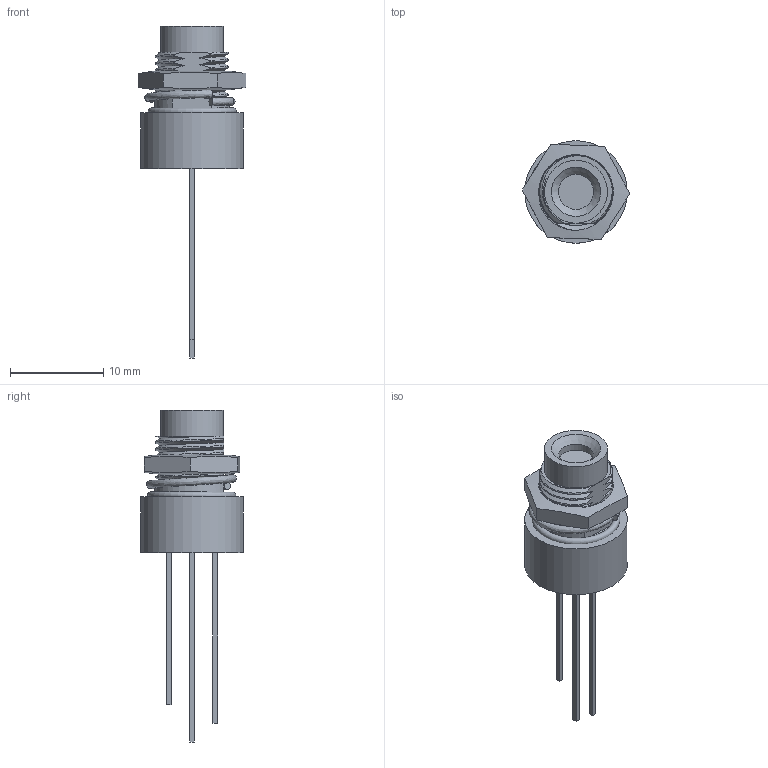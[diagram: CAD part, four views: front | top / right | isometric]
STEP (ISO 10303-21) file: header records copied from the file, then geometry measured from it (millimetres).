
FILE_DESCRIPTION( ( 'Unknown' ), '1' );
FILE_NAME( 'D:/My Documents/Q series 3D files/QRM84BZZRYG.stp', 'Unknown', ( 'Unknown' ), ( 'Unknown' ), 'PSStep 15.0.49', 'Unknown', ' ' );
FILE_SCHEMA( ( 'AUTOMOTIVE_DESIGN { 1 0 10303 214 1 1 1 1 }' ) );
Length unit declared in the file: millimetre
Products named in the file (7): Assem1; 21-0026; 34-0128iss2; 13-0036; 8mm o'ring 0,75diax8; 5mm-flat tri-colour uncut; rear mount potting-3 wires in line
Assembly tree (6 placements, depth 2):
  Assem1
    21-0026
    34-0128iss2
    13-0036
    8mm o'ring 0,75diax8
    5mm-flat tri-colour uncut
    rear mount potting-3 wires in line
Bounding box: 11.54 x 11 x 35.6 mm (x, y, z)
Volume: 1031.2 mm3; surface area: 1909.1 mm2
Topology: 6 solids, 6 shells, 111 faces, 266 edges, 174 vertices
Faces by surface type: plane 58, bspline 29, cylinder 22, cone 1, torus 1
Full cylindrical faces by diameter (mm): 1.1 x3, 3.75 x1, 5 x1, 5.1 x1, 6 x1, 6.75 x1, 8 x1, 8.8 x1, 9 x2, 11 x1
Entity records: 20365 total; most frequent: CARTESIAN_POINT 17151, ORIENTED_EDGE 482, DIRECTION 348, EDGE_CURVE 241, VERTEX_POINT 168, EDGE_LOOP 146, FACE_OUTER_BOUND 126, AXIS2_PLACEMENT_3D 125
